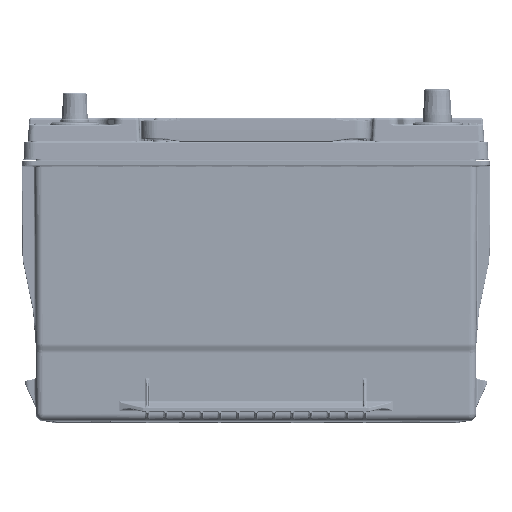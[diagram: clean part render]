
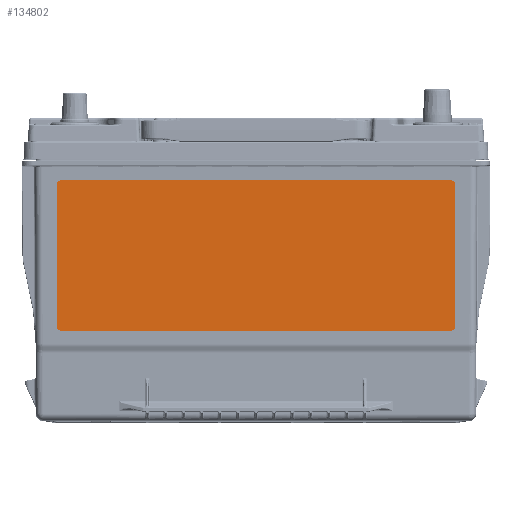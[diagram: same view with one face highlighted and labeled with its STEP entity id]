
A CAD part, top view. The second image highlights one B-rep face of the part: STEP entity #134802.
In plain terms, the highlighted planar face has unit normal (0, -0.003, 1).
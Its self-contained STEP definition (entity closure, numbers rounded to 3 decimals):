
#15222 = ORIENTED_EDGE ( 'NONE', *, *, #136423, .T. ) ;
#16842 = CARTESIAN_POINT ( 'NONE',  ( 5.3, -0.65, 3.236 ) ) ;
#29699 = VECTOR ( 'NONE', #269578, 39.37 ) ;
#33290 = DIRECTION ( 'NONE',  ( 1., 0., 0. ) ) ;
#33592 = DIRECTION ( 'NONE',  ( -1., 0., 0. ) ) ;
#34569 = AXIS2_PLACEMENT_3D ( 'NONE', #137924, #252040, #140301 ) ;
#35768 = EDGE_CURVE ( 'NONE', #182440, #255986, #230930, .T. ) ;
#38417 = VERTEX_POINT ( 'NONE', #72106 ) ;
#51772 = DIRECTION ( 'NONE',  ( 0., -0.003, 1. ) ) ;
#71236 = CARTESIAN_POINT ( 'NONE',  ( -5.175, -4.525, 3.226 ) ) ;
#72106 = CARTESIAN_POINT ( 'NONE',  ( 5.175, -4.525, 3.226 ) ) ;
#73364 = CIRCLE ( 'NONE', #339304, 0.125 ) ;
#77744 = LINE ( 'NONE', #222856, #247411 ) ;
#89394 = CARTESIAN_POINT ( 'NONE',  ( 5.175, -0.525, 3.236 ) ) ;
#97104 = AXIS2_PLACEMENT_3D ( 'NONE', #135909, #459650, #33592 ) ;
#102655 = FACE_OUTER_BOUND ( 'NONE', #224037, .T. ) ;
#105021 = DIRECTION ( 'NONE',  ( -1., 0., 0. ) ) ;
#106959 = CARTESIAN_POINT ( 'NONE',  ( -5.175, -4.525, 3.226 ) ) ;
#114170 = CARTESIAN_POINT ( 'NONE',  ( 5.3, -4.4, 3.226 ) ) ;
#123815 = CARTESIAN_POINT ( 'NONE',  ( 5.3, -0.65, 3.236 ) ) ;
#124209 = CARTESIAN_POINT ( 'NONE',  ( -5.3, -0.65, 3.236 ) ) ;
#129744 = VERTEX_POINT ( 'NONE', #124209 ) ;
#131305 = PLANE ( 'NONE',  #353582 ) ;
#134802 = ADVANCED_FACE ( 'NONE', ( #102655 ), #131305, .F. ) ;
#135909 = CARTESIAN_POINT ( 'NONE',  ( -5.175, -4.4, 3.226 ) ) ;
#136081 = AXIS2_PLACEMENT_3D ( 'NONE', #458490, #51772, #351384 ) ;
#136423 = EDGE_CURVE ( 'NONE', #255986, #404153, #73364, .T. ) ;
#137924 = CARTESIAN_POINT ( 'NONE',  ( -5.175, -0.65, 3.236 ) ) ;
#140301 = DIRECTION ( 'NONE',  ( -1., 0., 0. ) ) ;
#142761 = ORIENTED_EDGE ( 'NONE', *, *, #441406, .T. ) ;
#153354 = VERTEX_POINT ( 'NONE', #71236 ) ;
#160150 = LINE ( 'NONE', #305325, #29699 ) ;
#160265 = CARTESIAN_POINT ( 'NONE',  ( -5.175, -0.525, 3.236 ) ) ;
#165020 = VERTEX_POINT ( 'NONE', #160265 ) ;
#182440 = VERTEX_POINT ( 'NONE', #114170 ) ;
#204134 = ORIENTED_EDGE ( 'NONE', *, *, #400794, .T. ) ;
#207400 = CARTESIAN_POINT ( 'NONE',  ( 5.175, -0.65, 3.236 ) ) ;
#208262 = DIRECTION ( 'NONE',  ( -1., 0., 0. ) ) ;
#222856 = CARTESIAN_POINT ( 'NONE',  ( -5.175, -0.525, 3.236 ) ) ;
#224037 = EDGE_LOOP ( 'NONE', ( #15222, #260143, #431426, #204134, #142761, #435772, #265307, #323815 ) ) ;
#230930 = LINE ( 'NONE', #123815, #358838 ) ;
#237130 = VERTEX_POINT ( 'NONE', #470760 ) ;
#247411 = VECTOR ( 'NONE', #332367, 39.37 ) ;
#252040 = DIRECTION ( 'NONE',  ( 0., -0.003, 1. ) ) ;
#252054 = LINE ( 'NONE', #106959, #282901 ) ;
#255986 = VERTEX_POINT ( 'NONE', #16842 ) ;
#257685 = CIRCLE ( 'NONE', #136081, 0.125 ) ;
#260143 = ORIENTED_EDGE ( 'NONE', *, *, #457392, .T. ) ;
#265307 = ORIENTED_EDGE ( 'NONE', *, *, #324826, .T. ) ;
#265630 = CARTESIAN_POINT ( 'NONE',  ( 5.175, -0.65, 3.236 ) ) ;
#269578 = DIRECTION ( 'NONE',  ( 0., -1., -0.003 ) ) ;
#269851 = CIRCLE ( 'NONE', #34569, 0.125 ) ;
#272647 = DIRECTION ( 'NONE',  ( 0., -0.003, 1. ) ) ;
#282901 = VECTOR ( 'NONE', #33290, 39.37 ) ;
#285829 = DIRECTION ( 'NONE',  ( 0., 0.003, -1. ) ) ;
#305325 = CARTESIAN_POINT ( 'NONE',  ( -5.3, -0.65, 3.236 ) ) ;
#323815 = ORIENTED_EDGE ( 'NONE', *, *, #35768, .T. ) ;
#324826 = EDGE_CURVE ( 'NONE', #38417, #182440, #257685, .T. ) ;
#332367 = DIRECTION ( 'NONE',  ( -1., 0., 0. ) ) ;
#339304 = AXIS2_PLACEMENT_3D ( 'NONE', #265630, #272647, #208262 ) ;
#351384 = DIRECTION ( 'NONE',  ( -1., 0., 0. ) ) ;
#353582 = AXIS2_PLACEMENT_3D ( 'NONE', #207400, #285829, #105021 ) ;
#358838 = VECTOR ( 'NONE', #414193, 39.37 ) ;
#393642 = CIRCLE ( 'NONE', #97104, 0.125 ) ;
#400794 = EDGE_CURVE ( 'NONE', #129744, #237130, #160150, .T. ) ;
#404153 = VERTEX_POINT ( 'NONE', #89394 ) ;
#407985 = EDGE_CURVE ( 'NONE', #153354, #38417, #252054, .T. ) ;
#414193 = DIRECTION ( 'NONE',  ( 0., 1., 0.003 ) ) ;
#431426 = ORIENTED_EDGE ( 'NONE', *, *, #456932, .T. ) ;
#435772 = ORIENTED_EDGE ( 'NONE', *, *, #407985, .T. ) ;
#441406 = EDGE_CURVE ( 'NONE', #237130, #153354, #393642, .T. ) ;
#456932 = EDGE_CURVE ( 'NONE', #165020, #129744, #269851, .T. ) ;
#457392 = EDGE_CURVE ( 'NONE', #404153, #165020, #77744, .T. ) ;
#458490 = CARTESIAN_POINT ( 'NONE',  ( 5.175, -4.4, 3.226 ) ) ;
#459650 = DIRECTION ( 'NONE',  ( 0., -0.003, 1. ) ) ;
#470760 = CARTESIAN_POINT ( 'NONE',  ( -5.3, -4.4, 3.226 ) ) ;
